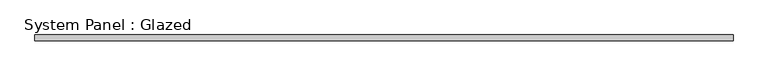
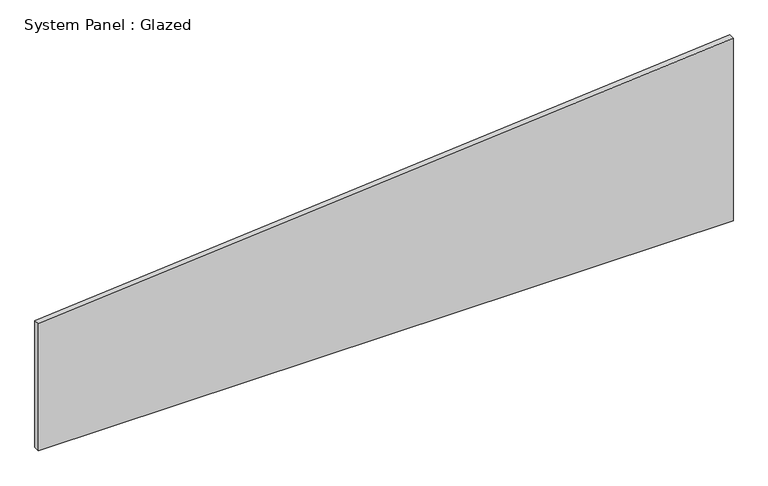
"""IFC4 building model written with IfcOpenShell, lengths in millimetres: plate geometry, System Panel : Glazed."""

from ifc_helpers import new_model, si_unit, frame, origin, place, context, project, spatial, polyline, outline, extrude, source, transform, mapped, element, save


def system_panel_glazed_819572de(model_context):
    return source(origin(), model_context, "Body", "SweptSolid", [
        extrude(outline(polyline([(0.0, -1504.95), (0.0, 1504.95), (835.3785327, 1504.95), (580.5509626, -1504.95), (0.0, -1504.95)])), frame((0.0, 19.05, 0.0), z_axis=(0.0, 1.0, 0.0), x_axis=(0.0, 0.0, 1.0)), (0.0, 0.0, 1.0), 25.4),
    ])


if __name__ == "__main__":
    model = new_model("IFC4")
    model_context = context("Model", 3, world=origin())
    ifc_project = project(units=[si_unit("LENGTHUNIT", "METRE", prefix="MILLI")], contexts=[model_context])
    site = spatial("IfcSite", under=ifc_project)
    building = spatial("IfcBuilding", under=site)
    placement = place(None, origin())
    system_panel_glazed_shape = system_panel_glazed_819572de(model_context)
    element("IfcPlate", 1, ObjectType="System Panel : Glazed", at=placement, inside=building, context=model_context, shape_type="MappedRepresentation", body=[
        mapped(system_panel_glazed_shape, transform((0.0, 0.0, 0.0), x_axis=(1.0, 0.0, 0.0), y_axis=(0.0, 1.0, 0.0), z_axis=(0.0, 0.0, 1.0))),
    ])
    save(model, "model.ifc")
